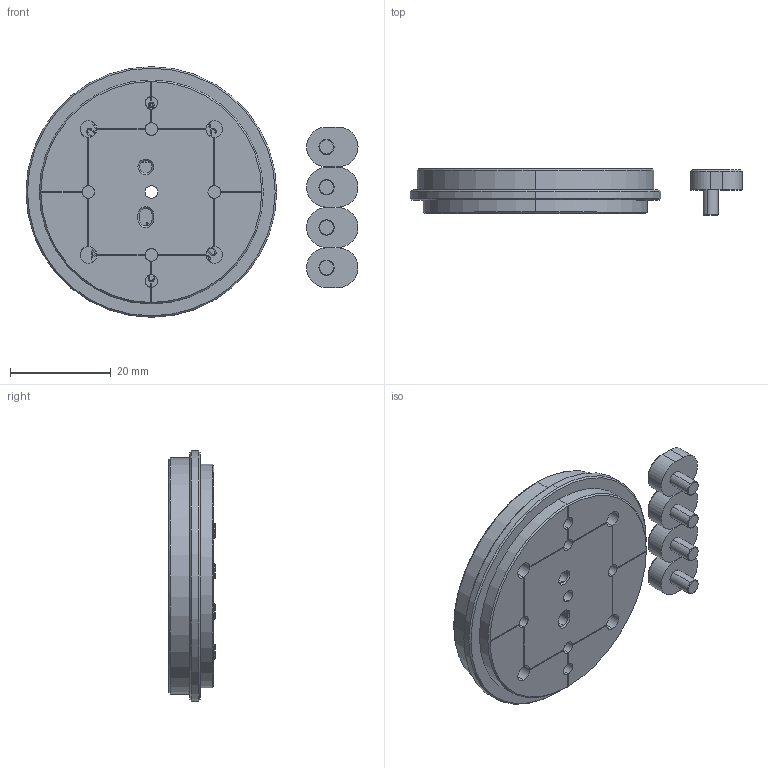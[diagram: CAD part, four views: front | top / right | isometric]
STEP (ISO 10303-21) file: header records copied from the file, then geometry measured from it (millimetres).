
FILE_DESCRIPTION (( 'STEP AP203' ), '1' );
FILE_NAME ('CSC1-3R.STEP', '2024-03-28T03:19:42', ( '' ), ( '' ), 'SwSTEP 2.0', 'SolidWorks 2021', '' );
FILE_SCHEMA (( 'CONFIG_CONTROL_DESIGN' ));
Products named in the file (1): CSC1-3R
Bounding box: 65.96 x 9.2 x 49.8 mm (x, y, z)
Surface area: 7464.2 mm2 (no closed solid volume)
Topology: 0 solids, 59 shells, 926 faces, 4783 edges, 3601 vertices
Faces by surface type: plane 706, bspline 108, cylinder 67, cone 37, torus 8
Entity records: 63405 total; most frequent: CARTESIAN_POINT 30047, ORIENTED_EDGE 6370, DIRECTION 5512, EDGE_CURVE 4775, VERTEX_POINT 3601, LINE 2980, VECTOR 2980, B_SPLINE_CURVE_WITH_KNOTS 1348
